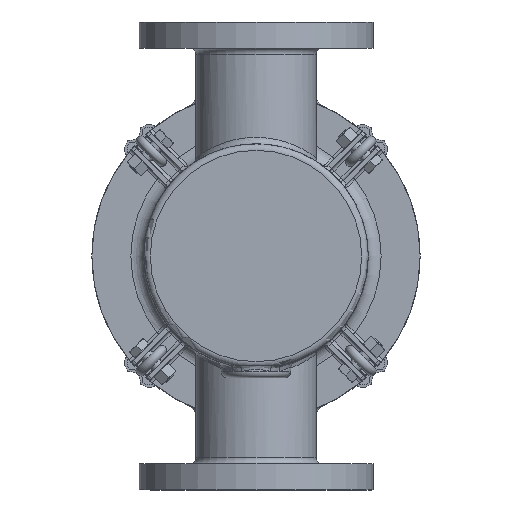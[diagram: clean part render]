
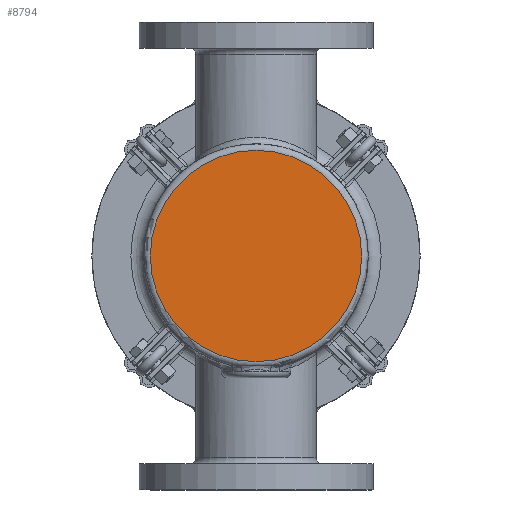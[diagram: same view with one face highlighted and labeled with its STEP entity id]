
A CAD part, front view. The second image highlights one B-rep face of the part: STEP entity #8794.
In plain terms, the highlighted planar face has unit normal (0, -1, 0).
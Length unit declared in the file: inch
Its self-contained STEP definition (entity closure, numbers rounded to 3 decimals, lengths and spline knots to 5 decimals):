
#1147=PLANE('',#9399);
#1918=FACE_OUTER_BOUND('',#2495,.T.);
#2495=EDGE_LOOP('',(#5938));
#3239=CIRCLE('',#9395,4.0625);
#3843=VERTEX_POINT('',#13816);
#4655=EDGE_CURVE('',#3843,#3843,#3239,.T.);
#5938=ORIENTED_EDGE('',*,*,#4655,.F.);
#8794=ADVANCED_FACE('',(#1918),#1147,.F.);
#9395=AXIS2_PLACEMENT_3D('',#13817,#10624,#10625);
#9399=AXIS2_PLACEMENT_3D('',#13822,#10632,#10633);
#10624=DIRECTION('center_axis',(0.,1.,0.));
#10625=DIRECTION('ref_axis',(1.,0.,0.));
#10632=DIRECTION('center_axis',(0.,1.,0.));
#10633=DIRECTION('ref_axis',(0.,0.,1.));
#13816=CARTESIAN_POINT('',(-4.0625,0.,0.));
#13817=CARTESIAN_POINT('Origin',(0.,0.,0.));
#13822=CARTESIAN_POINT('Origin',(0.,0.,0.));
